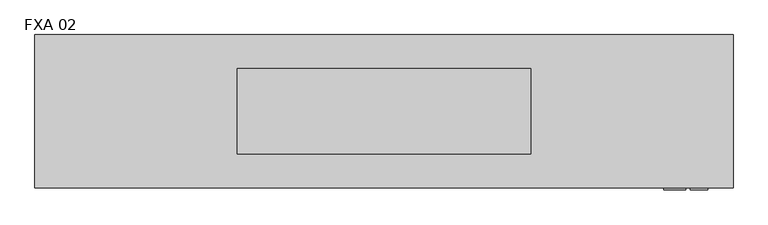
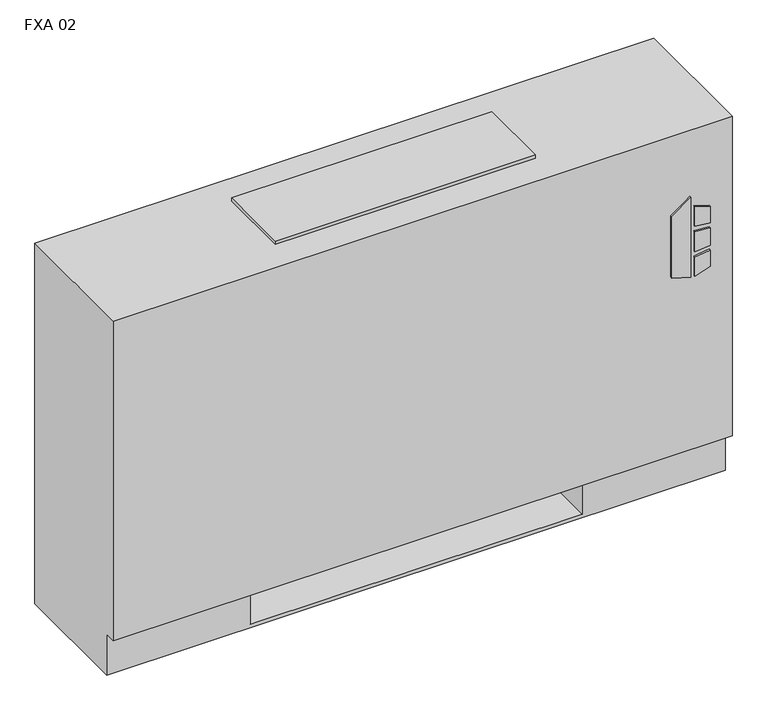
"""IFC4 building model written with IfcOpenShell, lengths in millimetres: proxy geometry, Vertical_Fan_Coil_Unit_-_FXA_-_IEC_-_2-Pipe_TS-FR_LH_2022 : FXA 02."""

from ifc_helpers import new_model, si_unit, point, frame, frame_2d, origin, place, context, project, spatial, polyline, circle_curve, trimmed, segment, composite_curve, outline, extrude, source, transform, mapped, element, save
from ifc_brep_helpers import plane_surface, revolved_surface, advanced_brep


def fxa_02_5dcf8495(model_context):
    return source(origin(), model_context, "Body", "SolidModel", [
        extrude(outline(polyline([(391.6086829, 569.9868862), (381.6606126, 602.1602728), (523.831537, 602.1602728), (500.8095309, 569.9868862), (391.6086829, 569.9868862)])), frame((0.0, 12.7, 0.0), z_axis=(0.0, 1.0, 0.0), x_axis=(0.0, 0.0, 1.0)), (0.0, 0.0, 1.0), 3.175),
        extrude(outline(polyline([(470.6079683, 608.9186058), (467.4055757, 635.0), (496.6344168, 635.0), (504.6988318, 608.9186058), (470.6079683, 608.9186058)])), frame((0.0, 12.7, 0.0), z_axis=(0.0, 1.0, 0.0), x_axis=(0.0, 0.0, 1.0)), (0.0, 0.0, 1.0), 3.175),
        extrude(outline(polyline([(418.7444414, 635.0), (415.0789404, 608.9186058), (381.6606126, 608.9186058), (390.2948498, 635.0), (418.7444414, 635.0)])), frame((0.0, 12.7, 0.0), z_axis=(0.0, 1.0, 0.0), x_axis=(0.0, 0.0, 1.0)), (0.0, 0.0, 1.0), 3.175),
        extrude(outline(polyline([(458.0596028, 635.0), (460.3414292, 608.9186058), (424.4038806, 608.9186058), (427.1451456, 635.0), (458.0596028, 635.0)])), frame((0.0, 12.7, 0.0), z_axis=(0.0, 1.0, 0.0), x_axis=(0.0, 0.0, 1.0)), (0.0, 0.0, 1.0), 3.175),
        extrude(outline(polyline([(552.45, 223.266), (552.45, 81.534), (431.8, 81.534), (431.8, 223.266), (552.45, 223.266)])), frame((0.0, 0.0, 327.025), z_axis=(0.0, 0.0, 1.0), x_axis=(1.0, 0.0, 0.0)), (0.0, 0.0, 1.0), 260.35),
        extrude(outline(composite_curve([segment(trimmed(circle_curve(frame_2d((-190.5, 130.175)), 9.525), [point((-200.025, 130.175))], [point((-180.975, 130.175))], False, "CARTESIAN"), True, "CONTINUOUS"), segment(trimmed(circle_curve(frame_2d((-190.5, 130.175)), 9.525), [point((-180.975, 130.175))], [point((-200.025, 130.175))], False, "CARTESIAN"), True, "CONTINUOUS")], self_intersect=False)), frame((0.0, 0.0, 101.6), z_axis=(0.0, 0.0, 1.0), x_axis=(1.0, 0.0, 0.0)), (0.0, 0.0, 1.0), 25.4),
        extrude(outline(polyline([(-285.75, 63.5), (-285.75, 196.85), (-127.0, 196.85), (-127.0, 63.5), (-285.75, 63.5)])), frame((0.0, 0.0, 127.0), z_axis=(0.0, 0.0, 1.0), x_axis=(1.0, 0.0, 0.0)), (0.0, 0.0, 1.0), 50.8),
        extrude(outline(composite_curve([segment(trimmed(circle_curve(frame_2d((93.1926, 485.5972)), 7.9375), [point((93.1926, 493.5347))], [point((93.1926, 477.6597))], False, "CARTESIAN"), True, "CONTINUOUS"), segment(trimmed(circle_curve(frame_2d((93.1926, 485.5972)), 7.9375), [point((93.1926, 477.6597))], [point((93.1926, 493.5347))], False, "CARTESIAN"), True, "CONTINUOUS")], self_intersect=False)), frame((-177.8, 0.0, 0.0), z_axis=(1.0, 0.0, 0.0), x_axis=(0.0, 1.0, 0.0)), (0.0, 0.0, 1.0), 50.8),
        extrude(outline(composite_curve([segment(trimmed(circle_curve(frame_2d((141.3002, 458.9526)), 7.9375), [point((141.3002, 466.8901))], [point((141.3002, 451.0151))], False, "CARTESIAN"), True, "CONTINUOUS"), segment(trimmed(circle_curve(frame_2d((141.3002, 458.9526)), 7.9375), [point((141.3002, 451.0151))], [point((141.3002, 466.8901))], False, "CARTESIAN"), True, "CONTINUOUS")], self_intersect=False)), frame((-177.8, 0.0, 0.0), z_axis=(1.0, 0.0, 0.0), x_axis=(0.0, 1.0, 0.0)), (0.0, 0.0, 1.0), 50.8),
        advanced_brep(
        [(673.1, 244.475, 641.35), (-368.3, 244.475, 641.35), (-368.3, 15.875, 641.35), (673.1, 15.875, 641.35), (-368.3, 244.475, 0.0), (673.1, 244.475, 0.0), (673.1, 34.925, 0.0), (-368.3, 34.925, 0.0), (431.8, 244.475, 73.025), (660.4, 244.475, 73.025), (660.4, 244.475, 628.65), (431.8, 244.475, 628.65), (431.8, 244.475, 414.8650565), (460.375, 244.475, 414.8650565), (460.375, 244.475, 385.2349435), (431.8, 244.475, 385.2349435), (431.8, 244.475, 287.3375), (460.375, 244.475, 287.3375), (460.375, 244.475, 258.7625), (431.8, 244.475, 258.7625), (431.8, 244.475, 141.2875), (460.375, 244.475, 141.2875), (460.375, 244.475, 112.7125), (431.8, 244.475, 112.7125), (-127.0, 244.475, 628.65), (-355.6, 244.475, 628.65), (-355.6, 244.475, 73.025), (-127.0, 244.475, 73.025), (-127.0, 244.475, 112.7125), (-155.575, 244.475, 112.7125), (-155.575, 244.475, 141.2875), (-127.0, 244.475, 141.2875), (-127.0, 244.475, 258.7625), (-155.575, 244.475, 258.7625), (-155.575, 244.475, 287.3375), (-127.0, 244.475, 287.3375), (-127.0, 244.475, 385.2349435), (-155.575, 244.475, 385.2349435), (-155.575, 244.475, 414.8650565), (-127.0, 244.475, 414.8650565), (450.0626, 244.475, 127.0), (438.9374, 244.475, 127.0), (450.0626, 244.475, 400.05), (438.9374, 244.475, 400.05), (450.0626, 244.475, 273.05), (438.9374, 244.475, 273.05), (-134.1374, 244.475, 127.0), (-145.2626, 244.475, 127.0), (-134.1374, 244.475, 273.05), (-145.2626, 244.475, 273.05), (-134.1374, 244.475, 400.05), (-145.2626, 244.475, 400.05), (-368.3, 34.925, 73.025), (-368.3, 15.875, 73.025), (673.1, 15.875, 73.025), (673.1, 34.925, 73.025), (-127.0, 34.925, 73.025), (-127.0, 219.075, 73.025), (431.8, 219.075, 73.025), (431.8, 34.925, 73.025), (431.8, 34.925, 6.35), (-127.0, 34.925, 6.35), (431.8, 41.275, 628.65), (660.4, 41.275, 628.65), (660.4, 41.275, 73.025), (431.8, 41.275, 73.025), (-127.0, 41.275, 628.65), (-127.0, 41.275, 73.025), (-355.6, 41.275, 73.025), (-355.6, 41.275, 628.65), (431.8, 219.075, 73.025), (431.8, 238.125, 112.7125), (431.8, 238.125, 141.2875), (431.8, 238.125, 258.7625), (431.8, 238.125, 287.3375), (431.8, 238.125, 385.2349435), (431.8, 238.125, 414.8650565), (-127.0, 219.075, 73.025), (-127.0, 238.125, 414.8650565), (-127.0, 238.125, 385.2349435), (-127.0, 238.125, 287.3375), (-127.0, 238.125, 258.7625), (-127.0, 238.125, 141.2875), (-127.0, 238.125, 112.7125), (-127.0, 219.075, 6.35), (431.8, 219.075, 6.35), (460.375, 238.125, 112.7125), (460.375, 238.125, 141.2875), (438.9374, 238.125, 127.0), (450.0626, 238.125, 127.0), (460.375, 238.125, 258.7625), (460.375, 238.125, 287.3375), (438.9374, 238.125, 273.05), (450.0626, 238.125, 273.05), (460.375, 238.125, 385.2349435), (460.375, 238.125, 414.8650565), (438.9374, 238.125, 400.05), (450.0626, 238.125, 400.05), (-155.575, 238.125, 141.2875), (-155.575, 238.125, 112.7125), (-145.2626, 238.125, 127.0), (-134.1374, 238.125, 127.0), (-155.575, 238.125, 287.3375), (-155.575, 238.125, 258.7625), (-145.2626, 238.125, 273.05), (-134.1374, 238.125, 273.05), (-155.575, 238.125, 414.8650565), (-155.575, 238.125, 385.2349435), (-145.2626, 238.125, 400.05), (-134.1374, 238.125, 400.05)],
        [
            (0, 1),
            (1, 2),
            (2, 3),
            (3, 0),
            (4, 5),
            (5, 6),
            (6, 7),
            (7, 4),
            (0, 5),
            (4, 1),
            (8, 9),
            (9, 10),
            (10, 11),
            (11, 12),
            (12, 13),
            (13, 14),
            (14, 15),
            (15, 16),
            (16, 17),
            (17, 18),
            (18, 19),
            (19, 20),
            (20, 21),
            (21, 22),
            (22, 23),
            (23, 8),
            (24, 25),
            (25, 26),
            (26, 27),
            (27, 28),
            (28, 29),
            (29, 30),
            (30, 31),
            (31, 32),
            (32, 33),
            (33, 34),
            (34, 35),
            (35, 36),
            (36, 37),
            (37, 38),
            (38, 39),
            (39, 24),
            (40, 41, circle_curve(frame((444.5, 244.475, 127.0), z_axis=(0.0, -1.0, 0.0), x_axis=(-1.0, 0.0, 0.0)), 5.5626)),
            (41, 40, circle_curve(frame((444.5, 244.475, 127.0), z_axis=(0.0, -1.0, 0.0), x_axis=(-1.0, 0.0, 0.0)), 5.5626)),
            (42, 43, circle_curve(frame((444.5, 244.475, 400.05), z_axis=(0.0, -1.0, 0.0), x_axis=(-1.0, 0.0, 0.0)), 5.5626)),
            (43, 42, circle_curve(frame((444.5, 244.475, 400.05), z_axis=(0.0, -1.0, 0.0), x_axis=(-1.0, 0.0, 0.0)), 5.5626)),
            (44, 45, circle_curve(frame((444.5, 244.475, 273.05), z_axis=(0.0, -1.0, 0.0), x_axis=(-1.0, 0.0, 0.0)), 5.5626)),
            (45, 44, circle_curve(frame((444.5, 244.475, 273.05), z_axis=(0.0, -1.0, 0.0), x_axis=(-1.0, 0.0, 0.0)), 5.5626)),
            (46, 47, circle_curve(frame((-139.7, 244.475, 127.0), z_axis=(0.0, -1.0, 0.0), x_axis=(-1.0, 0.0, 0.0)), 5.5626)),
            (47, 46, circle_curve(frame((-139.7, 244.475, 127.0), z_axis=(0.0, -1.0, 0.0), x_axis=(-1.0, 0.0, 0.0)), 5.5626)),
            (48, 49, circle_curve(frame((-139.7, 244.475, 273.05), z_axis=(0.0, -1.0, 0.0), x_axis=(-1.0, 0.0, 0.0)), 5.5626)),
            (49, 48, circle_curve(frame((-139.7, 244.475, 273.05), z_axis=(0.0, -1.0, 0.0), x_axis=(-1.0, 0.0, 0.0)), 5.5626)),
            (50, 51, circle_curve(frame((-139.7, 244.475, 400.05), z_axis=(0.0, -1.0, 0.0), x_axis=(-1.0, 0.0, 0.0)), 5.5626)),
            (51, 50, circle_curve(frame((-139.7, 244.475, 400.05), z_axis=(0.0, -1.0, 0.0), x_axis=(-1.0, 0.0, 0.0)), 5.5626)),
            (7, 52),
            (52, 53),
            (53, 2),
            (53, 54),
            (54, 3),
            (54, 55),
            (55, 6),
            (52, 56),
            (56, 57),
            (57, 58),
            (58, 59),
            (59, 55),
            (59, 60),
            (60, 61),
            (61, 56),
            (62, 63),
            (63, 64),
            (64, 65),
            (65, 62),
            (66, 67),
            (67, 68),
            (68, 69),
            (69, 66),
            (65, 70),
            (70, 8),
            (23, 71),
            (71, 72),
            (72, 20),
            (19, 73),
            (73, 74),
            (74, 16),
            (15, 75),
            (75, 76),
            (76, 12),
            (11, 62),
            (64, 9),
            (63, 10),
            (69, 25),
            (24, 66),
            (68, 26),
            (67, 77),
            (77, 27),
            (39, 78),
            (78, 79),
            (79, 36),
            (35, 80),
            (80, 81),
            (81, 32),
            (31, 82),
            (82, 83),
            (83, 28),
            (57, 84),
            (84, 85),
            (85, 58),
            (85, 60),
            (84, 61),
            (71, 86),
            (86, 87),
            (87, 72),
            (88, 89, circle_curve(frame((444.5, 238.125, 127.0), z_axis=(0.0, 1.0, 0.0), x_axis=(-1.0, 0.0, 0.0)), 5.5626)),
            (89, 88, circle_curve(frame((444.5, 238.125, 127.0), z_axis=(0.0, 1.0, 0.0), x_axis=(-1.0, 0.0, 0.0)), 5.5626)),
            (73, 90),
            (90, 91),
            (91, 74),
            (92, 93, circle_curve(frame((444.5, 238.125, 273.05), z_axis=(0.0, 1.0, 0.0), x_axis=(-1.0, 0.0, 0.0)), 5.5626)),
            (93, 92, circle_curve(frame((444.5, 238.125, 273.05), z_axis=(0.0, 1.0, 0.0), x_axis=(-1.0, 0.0, 0.0)), 5.5626)),
            (75, 94),
            (94, 95),
            (95, 76),
            (96, 97, circle_curve(frame((444.5, 238.125, 400.05), z_axis=(0.0, 1.0, 0.0), x_axis=(-1.0, 0.0, 0.0)), 5.5626)),
            (97, 96, circle_curve(frame((444.5, 238.125, 400.05), z_axis=(0.0, 1.0, 0.0), x_axis=(-1.0, 0.0, 0.0)), 5.5626)),
            (98, 99),
            (99, 83),
            (82, 98),
            (100, 101, circle_curve(frame((-139.7, 238.125, 127.0), z_axis=(0.0, 1.0, 0.0), x_axis=(-1.0, 0.0, 0.0)), 5.5626)),
            (101, 100, circle_curve(frame((-139.7, 238.125, 127.0), z_axis=(0.0, 1.0, 0.0), x_axis=(-1.0, 0.0, 0.0)), 5.5626)),
            (102, 103),
            (103, 81),
            (80, 102),
            (104, 105, circle_curve(frame((-139.7, 238.125, 273.05), z_axis=(0.0, 1.0, 0.0), x_axis=(-1.0, 0.0, 0.0)), 5.5626)),
            (105, 104, circle_curve(frame((-139.7, 238.125, 273.05), z_axis=(0.0, 1.0, 0.0), x_axis=(-1.0, 0.0, 0.0)), 5.5626)),
            (106, 107),
            (107, 79),
            (78, 106),
            (108, 109, circle_curve(frame((-139.7, 238.125, 400.05), z_axis=(0.0, 1.0, 0.0), x_axis=(-1.0, 0.0, 0.0)), 5.5626)),
            (109, 108, circle_curve(frame((-139.7, 238.125, 400.05), z_axis=(0.0, 1.0, 0.0), x_axis=(-1.0, 0.0, 0.0)), 5.5626)),
            (87, 21),
            (86, 22),
            (91, 17),
            (90, 18),
            (95, 13),
            (94, 14),
            (30, 98),
            (99, 29),
            (34, 102),
            (103, 33),
            (38, 106),
            (107, 37),
            (88, 41),
            (40, 89),
            (96, 43),
            (42, 97),
            (92, 45),
            (44, 93),
            (100, 47),
            (46, 101),
            (104, 49),
            (48, 105),
            (108, 51),
            (50, 109),
        ],
        [
            plane_surface(frame((-368.3, 244.475, 641.35), z_axis=(0.0, 0.0, 1.0), x_axis=(-1.0, 0.0, 0.0))),
            plane_surface(frame((-368.3, 244.475, 0.0), z_axis=(0.0, 0.0, -1.0), x_axis=(1.0, 0.0, 0.0))),
            plane_surface(frame((673.1, 244.475, 641.35), z_axis=(0.0, 1.0, 0.0), x_axis=(0.0, 0.0, -1.0))),
            plane_surface(frame((-368.3, 244.475, 641.35), z_axis=(-1.0, 0.0, 0.0), x_axis=(0.0, 0.0, -1.0))),
            plane_surface(frame((-368.3, 15.875, 641.35), z_axis=(0.0, -1.0, 0.0), x_axis=(0.0, 0.0, -1.0))),
            plane_surface(frame((673.1, 15.875, 641.35), z_axis=(1.0, 0.0, 0.0), x_axis=(0.0, 0.0, -1.0))),
            plane_surface(frame((-368.3, 15.875, 73.025), z_axis=(0.0, 0.0, -1.0), x_axis=(1.0, 0.0, 0.0))),
            plane_surface(frame((-368.3, 34.925, 73.025), z_axis=(0.0, -1.0, 0.0), x_axis=(1.0, 0.0, 0.0))),
            plane_surface(frame((431.8, 41.275, 628.65), z_axis=(0.0, 1.0, 0.0), x_axis=(0.0, 0.0, -1.0))),
            plane_surface(frame((431.8, 41.275, 628.65), z_axis=(1.0, 0.0, 0.0), x_axis=(0.0, 1.0, 0.0))),
            plane_surface(frame((431.8, 41.275, 73.025), z_axis=(0.0, 0.0, 1.0), x_axis=(0.0, 1.0, 0.0))),
            plane_surface(frame((660.4, 41.275, 73.025), z_axis=(-1.0, 0.0, 0.0), x_axis=(0.0, 1.0, 0.0))),
            plane_surface(frame((660.4, 41.275, 628.65), z_axis=(0.0, 0.0, -1.0), x_axis=(0.0, 1.0, 0.0))),
            plane_surface(frame((-127.0, 41.275, 628.65), z_axis=(0.0, 0.0, -1.0), x_axis=(0.0, 1.0, 0.0))),
            plane_surface(frame((-355.6, 41.275, 628.65), z_axis=(1.0, 0.0, 0.0), x_axis=(0.0, 1.0, 0.0))),
            plane_surface(frame((-355.6, 41.275, 73.025), z_axis=(0.0, 0.0, 1.0), x_axis=(0.0, 1.0, 0.0))),
            plane_surface(frame((-127.0, 41.275, 73.025), z_axis=(-1.0, 0.0, 0.0), x_axis=(0.0, 1.0, 0.0))),
            plane_surface(frame((431.8, 219.075, 73.025), z_axis=(0.0, -1.0, 0.0), x_axis=(0.0, 0.0, -1.0))),
            plane_surface(frame((431.8, 219.075, 73.025), z_axis=(-1.0, 0.0, 0.0), x_axis=(0.0, -1.0, 0.0))),
            plane_surface(frame((431.8, 219.075, 6.35), z_axis=(0.0, 0.0, 1.0), x_axis=(0.0, -1.0, 0.0))),
            plane_surface(frame((-127.0, 219.075, 6.35), z_axis=(1.0, 0.0, 0.0), x_axis=(0.0, -1.0, 0.0))),
            plane_surface(frame((460.375, 238.125, 141.2875), z_axis=(0.0, -1.0, 0.0), x_axis=(-1.0, 0.0, 0.0))),
            plane_surface(frame((431.8, 244.475, 141.2875), z_axis=(0.0, 0.0, 1.0), x_axis=(0.0, -1.0, 0.0))),
            plane_surface(frame((460.375, 244.475, 141.2875), z_axis=(1.0, 0.0, 0.0), x_axis=(0.0, -1.0, 0.0))),
            plane_surface(frame((460.375, 244.475, 112.7125), z_axis=(0.0, 0.0, -1.0), x_axis=(0.0, -1.0, 0.0))),
            plane_surface(frame((431.8, 244.475, 287.3375), z_axis=(0.0, 0.0, 1.0), x_axis=(0.0, -1.0, 0.0))),
            plane_surface(frame((460.375, 244.475, 287.3375), z_axis=(1.0, 0.0, 0.0), x_axis=(0.0, -1.0, 0.0))),
            plane_surface(frame((460.375, 244.475, 258.7625), z_axis=(0.0, 0.0, -1.0), x_axis=(0.0, -1.0, 0.0))),
            plane_surface(frame((431.8, 244.475, 414.8650565), z_axis=(0.0, 0.0, 1.0), x_axis=(0.0, -1.0, 0.0))),
            plane_surface(frame((460.375, 244.475, 414.8650565), z_axis=(1.0, 0.0, 0.0), x_axis=(0.0, -1.0, 0.0))),
            plane_surface(frame((460.375, 244.475, 385.2349435), z_axis=(0.0, 0.0, -1.0), x_axis=(0.0, -1.0, 0.0))),
            plane_surface(frame((-155.575, 244.475, 141.2875), z_axis=(0.0, 0.0, 1.0), x_axis=(0.0, -1.0, 0.0))),
            plane_surface(frame((-127.0, 244.475, 112.7125), z_axis=(0.0, 0.0, -1.0), x_axis=(0.0, -1.0, 0.0))),
            plane_surface(frame((-155.575, 244.475, 112.7125), z_axis=(-1.0, 0.0, 0.0), x_axis=(0.0, -1.0, 0.0))),
            plane_surface(frame((-155.575, 244.475, 287.3375), z_axis=(0.0, 0.0, 1.0), x_axis=(0.0, -1.0, 0.0))),
            plane_surface(frame((-127.0, 244.475, 258.7625), z_axis=(0.0, 0.0, -1.0), x_axis=(0.0, -1.0, 0.0))),
            plane_surface(frame((-155.575, 244.475, 258.7625), z_axis=(-1.0, 0.0, 0.0), x_axis=(0.0, -1.0, 0.0))),
            plane_surface(frame((-155.575, 244.475, 414.8650565), z_axis=(0.0, 0.0, 1.0), x_axis=(0.0, -1.0, 0.0))),
            plane_surface(frame((-127.0, 244.475, 385.2349435), z_axis=(0.0, 0.0, -1.0), x_axis=(0.0, -1.0, 0.0))),
            plane_surface(frame((-155.575, 244.475, 385.2349435), z_axis=(-1.0, 0.0, 0.0), x_axis=(0.0, -1.0, 0.0))),
            revolved_surface(polyline([(438.9374, 238.125, 127.0), (438.9374, 244.475, 127.0)]), (444.5, 244.475, 127.0), (0.0, -1.0, 0.0)),
            revolved_surface(polyline([(438.9374, 238.125, 400.05), (438.9374, 244.475, 400.05)]), (444.5, 244.475, 400.05), (0.0, -1.0, 0.0)),
            revolved_surface(polyline([(438.9374, 238.125, 273.05), (438.9374, 244.475, 273.05)]), (444.5, 244.475, 273.05), (0.0, -1.0, 0.0)),
            revolved_surface(polyline([(-145.2626, 238.125, 127.0), (-145.2626, 244.475, 127.0)]), (-139.7, 244.475, 127.0), (0.0, -1.0, 0.0)),
            revolved_surface(polyline([(-145.2626, 238.125, 273.05), (-145.2626, 244.475, 273.05)]), (-139.7, 244.475, 273.05), (0.0, -1.0, 0.0)),
            revolved_surface(polyline([(-145.2626, 238.125, 400.05), (-145.2626, 244.475, 400.05)]), (-139.7, 244.475, 400.05), (0.0, -1.0, 0.0)),
        ],
        [
            (0, [[1, 2, 3, 4]]),
            (1, [[5, 6, 7, 8]]),
            (2, [[-1, 9, -5, 10], [11, 12, 13, 14, 15, 16, 17, 18, 19, 20, 21, 22, 23, 24, 25, 26], [27, 28, 29, 30, 31, 32, 33, 34, 35, 36, 37, 38, 39, 40, 41, 42], [43, 44], [45, 46], [47, 48], [49, 50], [51, 52], [53, 54]]),
            (3, [[-2, -10, -8, 55, 56, 57]]),
            (4, [[-3, -57, 58, 59]]),
            (5, [[-4, -59, 60, 61, -6, -9]]),
            (6, [[-56, 62, 63, 64, 65, 66, -60, -58]]),
            (7, [[-7, -61, -66, 67, 68, 69, -62, -55]]),
            (8, [[70, 71, 72, 73]]),
            (8, [[74, 75, 76, 77]]),
            (9, [[-73, 78, 79, -26, 80, 81, 82, -22, 83, 84, 85, -18, 86, 87, 88, -14, 89]]),
            (10, [[-72, 90, -11, -79, -78]]),
            (11, [[-71, 91, -12, -90]]),
            (12, [[-70, -89, -13, -91]]),
            (13, [[-77, 92, -27, 93]]),
            (14, [[-76, 94, -28, -92]]),
            (15, [[-75, 95, 96, -29, -94]]),
            (16, [[-74, -93, -42, 97, 98, 99, -38, 100, 101, 102, -34, 103, 104, 105, -30, -96, -95]]),
            (17, [[-64, 106, 107, 108]]),
            (18, [[-108, 109, -67, -65]]),
            (19, [[-107, 110, -68, -109]]),
            (20, [[-106, -63, -69, -110]]),
            (21, [[111, 112, 113, -81], [114, 115]]),
            (21, [[116, 117, 118, -84], [119, 120]]),
            (21, [[121, 122, 123, -87], [124, 125]]),
            (21, [[126, 127, -104, 128], [129, 130]]),
            (21, [[131, 132, -101, 133], [134, 135]]),
            (21, [[136, 137, -98, 138], [139, 140]]),
            (22, [[-113, 141, -23, -82]]),
            (23, [[-112, 142, -24, -141]]),
            (24, [[-111, -80, -25, -142]]),
            (25, [[-118, 143, -19, -85]]),
            (26, [[-117, 144, -20, -143]]),
            (27, [[-116, -83, -21, -144]]),
            (28, [[-123, 145, -15, -88]]),
            (29, [[-122, 146, -16, -145]]),
            (30, [[-121, -86, -17, -146]]),
            (31, [[-128, -103, -33, 147]]),
            (32, [[-127, 148, -31, -105]]),
            (33, [[-126, -147, -32, -148]]),
            (34, [[-133, -100, -37, 149]]),
            (35, [[-132, 150, -35, -102]]),
            (36, [[-131, -149, -36, -150]]),
            (37, [[-138, -97, -41, 151]]),
            (38, [[-137, 152, -39, -99]]),
            (39, [[-136, -151, -40, -152]]),
            (40, [[153, -43, 154, -114]]),
            (40, [[-153, -115, -154, -44]]),
            (41, [[155, -45, 156, -124]]),
            (41, [[-155, -125, -156, -46]]),
            (42, [[157, -47, 158, -119]]),
            (42, [[-157, -120, -158, -48]]),
            (43, [[159, -49, 160, -129]]),
            (43, [[-159, -130, -160, -50]]),
            (44, [[161, -51, 162, -134]]),
            (44, [[-161, -135, -162, -52]]),
            (45, [[163, -53, 164, -139]]),
            (45, [[-163, -140, -164, -54]]),
        ],
    ),
        extrude(outline(polyline([(371.475, 193.675), (371.475, 66.675), (-66.675, 66.675), (-66.675, 193.675), (371.475, 193.675)])), frame((0.0, 0.0, 641.35), z_axis=(0.0, 0.0, 1.0), x_axis=(1.0, 0.0, 0.0)), (0.0, 0.0, 1.0), 6.35),
    ])


if __name__ == "__main__":
    model = new_model("IFC4")
    model_context = context("Model", 3, world=origin())
    ifc_project = project(units=[si_unit("LENGTHUNIT", "METRE", prefix="MILLI")], contexts=[model_context])
    site = spatial("IfcSite", under=ifc_project)
    building = spatial("IfcBuilding", under=site)
    placement = place(None, origin())
    fxa_02_shape = fxa_02_5dcf8495(model_context)
    element("IfcBuildingElementProxy", 1, Name="Vertical_Fan_Coil_Unit_-_FXA_-_IEC_-_2-Pipe_TS-FR_LH_2022 : FXA 02", ObjectType="Vertical_Fan_Coil_Unit_-_FXA_-_IEC_-_2-Pipe_TS-FR_LH_2022 : FXA 02", at=placement, inside=building, context=model_context, shape_type="MappedRepresentation", body=[
        mapped(fxa_02_shape, transform((0.0, 0.0, 0.0), x_axis=(1.0, 0.0, 0.0), y_axis=(0.0, 1.0, 0.0), z_axis=(0.0, 0.0, 1.0))),
    ])
    save(model, "model.ifc")
